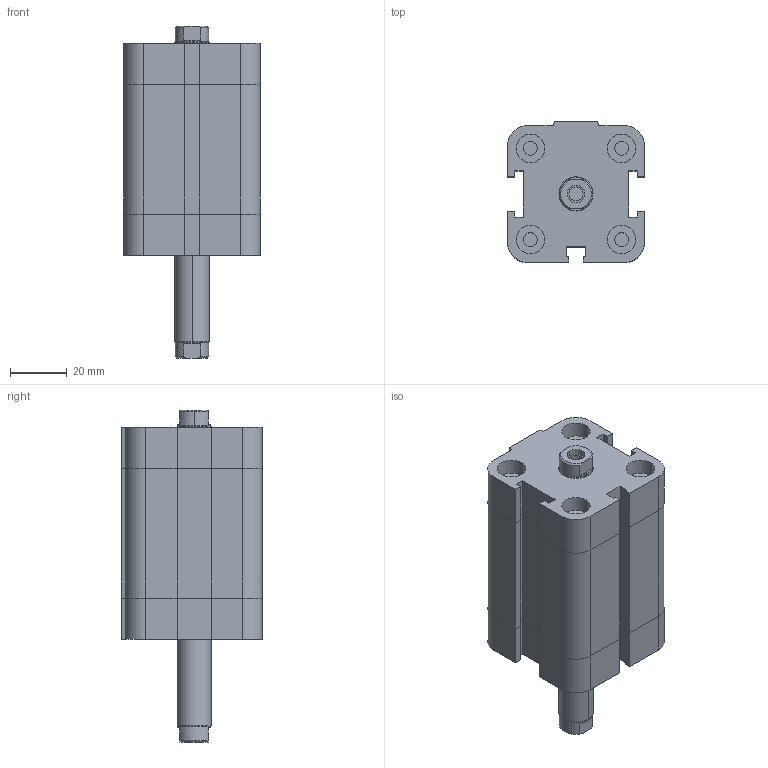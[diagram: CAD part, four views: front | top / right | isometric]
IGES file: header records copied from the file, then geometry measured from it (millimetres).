
Global section: file name: No Iges File Name specified; native system: Autodesk Inventor 2009; preprocessor: AutoDesk Inventor Iges Exporter R2009; author: maffial1; date: 20090420.200526; units: millimetre
Bounding box: 48 x 49.5 x 116.5 mm (x, y, z)
Volume: 153921.2 mm3; surface area: 32558.5 mm2
Topology: 2 solids, 2 shells, 202 faces, 450 edges, 274 vertices
Faces by surface type: plane 114, bspline 42, revolution 20, cylinder 18, cone 8
